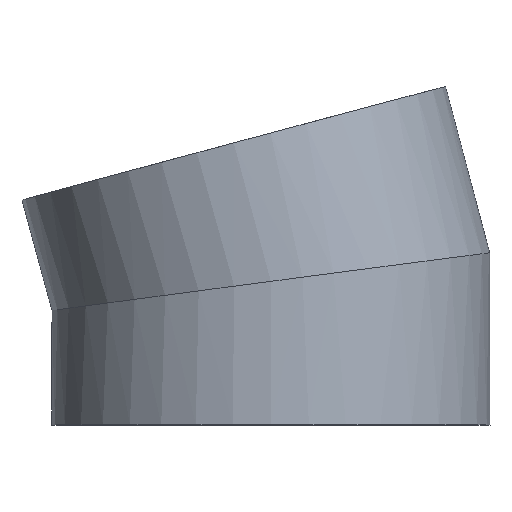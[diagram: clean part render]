
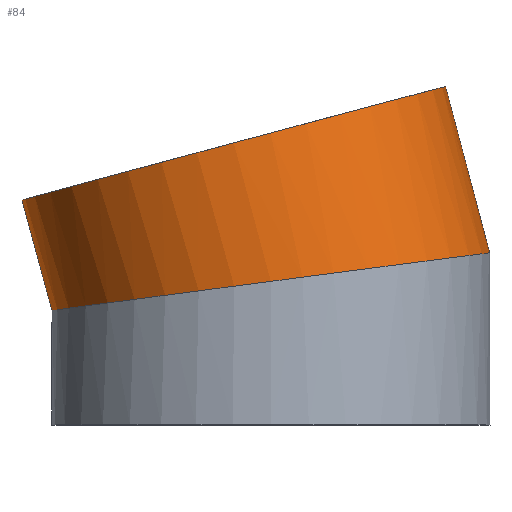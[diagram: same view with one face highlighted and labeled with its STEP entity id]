
A CAD part, top view. The second image highlights one B-rep face of the part: STEP entity #84.
In plain terms, the highlighted cylindrical face has radius 157.5 mm (diameter 315 mm), a full revolution.
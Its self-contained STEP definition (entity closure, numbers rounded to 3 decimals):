
#16=FACE_BOUND($,#34,.T.);
#25=ELLIPSE($,#98,158.859,157.5);
#26=ELLIPSE($,#99,158.859,157.5);
#28=FACE_OUTER_BOUND($,#33,.T.);
#33=EDGE_LOOP($,(#66));
#34=EDGE_LOOP($,(#67,#68));
#44=CIRCLE($,#97,157.5);
#50=VERTEX_POINT($,#145);
#51=VERTEX_POINT($,#147);
#52=VERTEX_POINT($,#148);
#58=EDGE_CURVE($,#50,#50,#44,.T.);
#59=EDGE_CURVE($,#51,#52,#25,.T.);
#60=EDGE_CURVE($,#52,#51,#26,.T.);
#66=ORIENTED_EDGE($,*,*,#58,.T.);
#67=ORIENTED_EDGE($,*,*,#59,.F.);
#68=ORIENTED_EDGE($,*,*,#60,.F.);
#80=CYLINDRICAL_SURFACE($,#96,157.5);
#84=ADVANCED_FACE($,(#28,#16),#80,.T.);
#96=AXIS2_PLACEMENT_3D($,#144,#116,#117);
#97=AXIS2_PLACEMENT_3D($,#146,#118,#119);
#98=AXIS2_PLACEMENT_3D($,#149,#120,#121);
#99=AXIS2_PLACEMENT_3D($,#150,#122,#123);
#116=DIRECTION('center_axis',(0.259,-0.966,0.));
#117=DIRECTION('ref_axis',(0.966,0.259,0.));
#118=DIRECTION('center_axis',(0.259,-0.966,0.));
#119=DIRECTION('ref_axis',(0.966,0.259,0.));
#120=DIRECTION('center_axis',(0.131,-0.991,0.));
#121=DIRECTION('ref_axis',(0.991,0.131,0.));
#122=DIRECTION('center_axis',(0.131,-0.991,0.));
#123=DIRECTION('ref_axis',(0.991,0.131,0.));
#144=CARTESIAN_POINT('Origin',(-26.658,202.49,0.));
#145=CARTESIAN_POINT('',(-178.792,161.726,0.));
#146=CARTESIAN_POINT('Origin',(-26.658,202.49,0.));
#147=CARTESIAN_POINT('',(0.,103.,157.5));
#148=CARTESIAN_POINT('',(0.,103.,-157.5));
#149=CARTESIAN_POINT('Origin',(0.,103.,0.));
#150=CARTESIAN_POINT('Origin',(0.,103.,0.));
